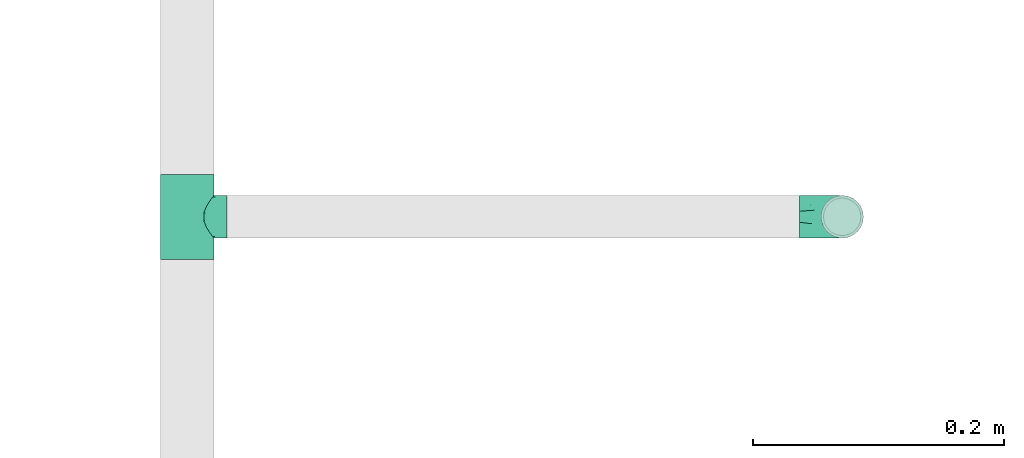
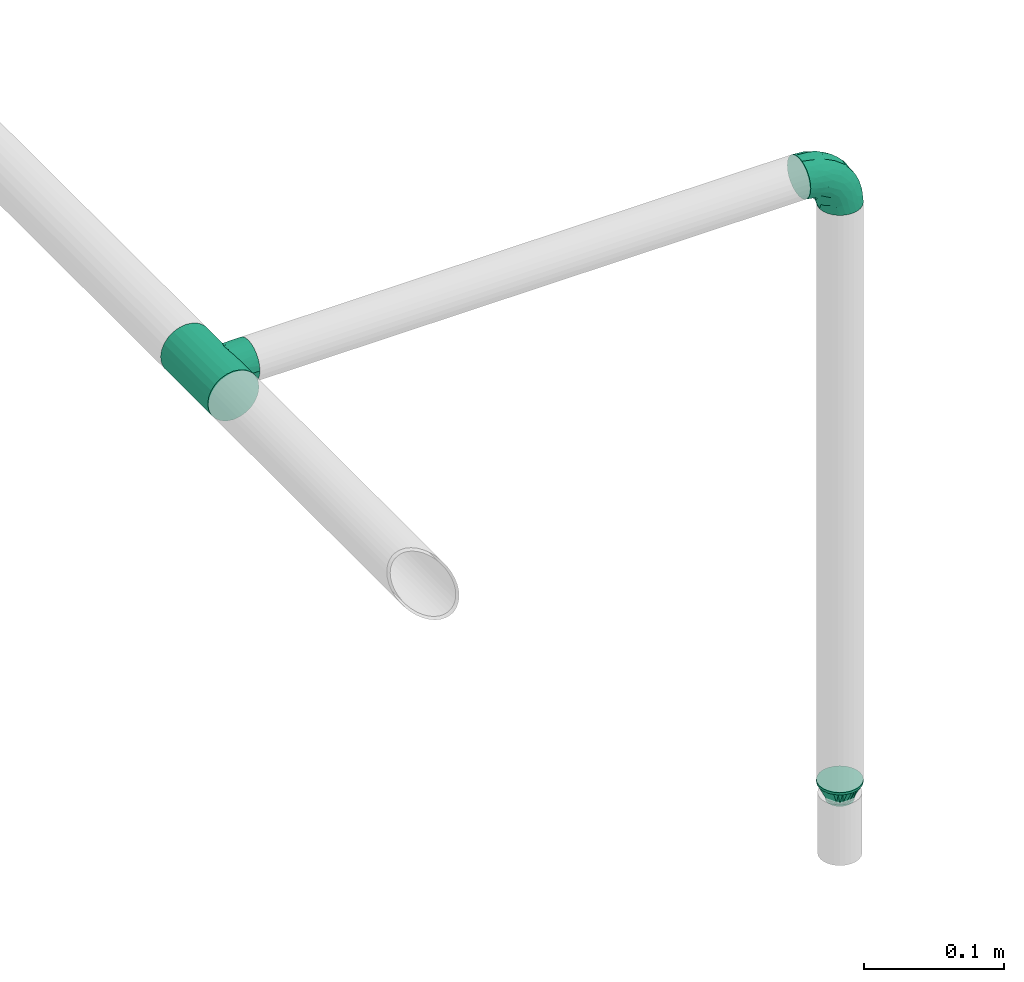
# One storey, part 37 of 95: 3 flow fittings.
"""IFC2X3 building model written with IfcOpenShell, lengths in millimetres."""

from ifc_helpers import new_model, entity, si_unit, converted_unit, derived_unit, direction, frame, origin_with_axes, place, context, subcontext, project, spatial, open_shell, surface_model, source, transform, mapped, type_object, element, save


model = new_model("IFC2X3")

# Units and contexts
model_context = context("Model", 3, precision=0.01, world=frame((0.0, 4.29681676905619e-09, 0.0)), true_north=direction((4.01073788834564e-13, 1.0)))
plan_context = context("Plan", 3, precision=0.01, world=frame((0.0, 4.29681676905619e-09, 0.0)), true_north=direction((4.01073788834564e-13, 1.0)))
body_context = subcontext(model_context, "Body", "Model", "MODEL_VIEW")
ifc_project = project(units=[converted_unit("PLANEANGLEUNIT", "DEGREE", entity("IfcPositiveLengthMeasure", 0.0174532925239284), si_unit("PLANEANGLEUNIT", "RADIAN"), dimensions=[0, 0, 0, 0, 0, 0, 0]), si_unit("AREAUNIT", "SQUARE_METRE"), si_unit("LENGTHUNIT", "METRE", prefix="MILLI"), si_unit("MASSUNIT", "GRAM", prefix="KILO"), si_unit("POWERUNIT", "WATT"), si_unit("PRESSUREUNIT", "PASCAL"), si_unit("FORCEUNIT", "NEWTON", prefix="KILO"), si_unit("ELECTRICVOLTAGEUNIT", "VOLT"), si_unit("ELECTRICCURRENTUNIT", "AMPERE"), si_unit("THERMODYNAMICTEMPERATUREUNIT", "DEGREE_CELSIUS"), si_unit("TIMEUNIT", "SECOND"), si_unit("VOLUMEUNIT", "CUBIC_METRE"), derived_unit("LINEARVELOCITYUNIT", [(si_unit("LENGTHUNIT", "METRE"), 1), (si_unit("TIMEUNIT", "SECOND"), -1)]), derived_unit("VOLUMETRICFLOWRATEUNIT", [(si_unit("VOLUMEUNIT", "CUBIC_METRE"), 1), (si_unit("TIMEUNIT", "SECOND"), -1)]), derived_unit("THERMALTRANSMITTANCEUNIT", [(si_unit("POWERUNIT", "WATT"), 1), (si_unit("THERMODYNAMICTEMPERATUREUNIT", "KELVIN"), -1), (si_unit("AREAUNIT", "SQUARE_METRE"), -1)]), derived_unit("SOUNDPRESSUREUNIT", [(si_unit("PRESSUREUNIT", "PASCAL"), 1)])], contexts=[model_context, plan_context])

# Site, building, storey
site_placement = place(None, frame((0.0, -4.29681676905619e-09, 0.0), z_axis=(0.0, 0.0, 1.0), x_axis=(1.0, 0.0, 0.0)))
site = spatial("IfcSite", under=ifc_project, at=site_placement, CompositionType="ELEMENT")
building_placement = place(site_placement, frame((0.0, 4.29681676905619e-09, 0.0), z_axis=(0.0, 0.0, 1.0), x_axis=(1.0, 0.0, 0.0)))
building = spatial("IfcBuilding", under=site, at=building_placement, Name="mc-building", CompositionType="ELEMENT")
storey_placement = place(building_placement, frame((0.0, 0.0, 210900.0), z_axis=(0.0, 0.0, 1.0), x_axis=(1.0, 0.0, 0.0)))
storey = spatial("IfcBuildingStorey", under=building, at=storey_placement, Name="Nivå F", CompositionType="ELEMENT", Elevation=210900.0)

# Flow fittings
pipe_fitting_type_1 = type_object("IfcPipeFittingType", Name="magi_pipe_fe_reducer_centric_short_NOR", PredefinedType="TRANSITION")
shared_shape_1 = source(origin_with_axes(), body_context, "Body", "SurfaceModel", [
    surface_model("IfcShellBasedSurfaceModel", [(14.4, 5.35, -9.26647), (14.4, 0.0, -10.7), (14.4, 2.76936, -10.33541), (14.4, 10.33541, -2.76936), (14.4, 7.56604, -7.56604), (14.4, -10.33541, -2.76936), (14.4, 9.26647, -5.35), (14.4, 0.0, 10.7), (14.4, -5.35, -9.26647), (14.4, -2.76936, -10.33541), (14.4, -7.56604, -7.56604), (14.4, -9.26647, -5.35), (14.4, 10.7, 0.0), (14.4, 10.33541, 2.76936), (14.4, 9.26647, 5.35), (14.4, 7.56604, 7.56604), (14.4, 2.76936, 10.33541), (14.4, 5.35, 9.26647), (14.4, -10.33541, 2.76936), (14.4, -7.56604, 7.56604), (14.4, -9.26647, 5.35), (14.4, -10.7, 0.0), (14.4, -2.76936, 10.33541), (14.4, -5.35, 9.26647), (12.4, 2.76936, 10.33541), (12.4, -10.33541, -2.76936), (12.4, 0.0, 10.7), (12.4, 5.35, 9.26647), (12.4, 7.56604, 7.56604), (12.4, 9.26647, 5.35), (12.4, 10.33541, 2.76936), (12.4, -10.33541, 2.76936), (12.4, -2.76936, 10.33541), (12.4, -7.56604, 7.56604), (12.4, -5.35, 9.26647), (12.4, -9.26647, 5.35), (12.4, -10.7, 0.0), (12.4, 10.33541, -2.76936), (12.4, 5.35, -9.26647), (12.4, 9.26647, -5.35), (12.4, 7.56604, -7.56604), (12.4, 2.76936, -10.33541), (12.4, -9.26647, -5.35), (12.4, -5.35, -9.26647), (12.4, -7.56604, -7.56604), (12.4, 0.0, -10.7), (12.4, -2.76936, -10.33541), (12.4, 10.7, 0.0), (-2.0, 11.9501, 11.9501), (-2.0, 0.0, 16.9), (-2.0, 4.37404, 16.32415), (-2.0, 8.45, 14.63583), (-2.0, 14.63583, 8.45), (-2.0, 16.32415, 4.37404), (-2.0, -16.32415, 4.37404), (-2.0, -8.45, 14.63583), (-2.0, -14.63583, 8.45), (-2.0, -11.9501, 11.9501), (-2.0, -4.37404, 16.32415), (-2.0, -16.32415, -4.37404), (-2.0, -16.9, 0.0), (-2.0, -8.45, -14.63583), (-2.0, 16.32415, -4.37404), (-2.0, 11.9501, -11.9501), (-2.0, 14.63583, -8.45), (-2.0, 8.45, -14.63583), (-2.0, 4.37404, -16.32415), (-2.0, 0.0, -16.9), (-2.0, -11.9501, -11.9501), (-2.0, -14.63583, -8.45), (-2.0, -4.37404, -16.32415), (-2.0, 16.9, 0.0), (0.0, 4.37404, -16.32415), (0.0, 8.45, -14.63583), (0.0, 11.9501, -11.9501), (0.0, 0.0, -16.9), (0.0, 16.32415, -4.37404), (0.0, 16.32415, 4.37404), (0.0, 14.63583, -8.45), (0.0, -8.45, -14.63583), (0.0, -4.37404, -16.32415), (0.0, -11.9501, -11.9501), (0.0, -16.32415, -4.37404), (0.0, -14.63583, -8.45), (0.0, -16.32415, 4.37404), (0.0, 16.9, 0.0), (0.0, 14.63583, 8.45), (0.0, 11.9501, 11.9501), (0.0, 4.37404, 16.32415), (0.0, 8.45, 14.63583), (0.0, 0.0, 16.9), (0.0, -14.63583, 8.45), (0.0, -16.9, 0.0), (0.0, -8.45, 14.63583), (0.0, -11.9501, 11.9501), (0.0, -4.37404, 16.32415), (12.4, 9.3625, -2.31662), (0.0, 14.42505, -5.97505), (0.0, 15.66253, -2.98753), (12.4, -6.6875, -6.94985), (0.0, -13.18758, -8.96258), (0.0, 2.98753, -15.66253), (12.4, 0.0, -9.26647), (12.4, 6.6875, -6.94985), (0.0, 8.96258, -13.18758), (12.4, -9.3625, -2.31662), (0.0, -15.66253, -2.98753), (0.0, -14.42505, -5.97505), (0.0, 5.97505, -14.42505), (0.0, -2.98753, -15.66253), (0.0, -8.96258, -13.18758), (0.0, 13.18758, -8.96258), (12.4, 8.025, -4.63324), (12.4, -2.675, -9.26647), (12.4, 2.675, -9.26647), (0.0, -5.97505, -14.42505), (12.4, -8.025, -4.63324), (12.4, -9.3625, 2.31662), (0.0, -14.42505, 5.97505), (0.0, -15.66253, 2.98753), (12.4, 6.6875, 6.94985), (0.0, 13.18758, 8.96258), (0.0, -2.98753, 15.66253), (12.4, 0.0, 9.26647), (12.4, -6.6875, 6.94985), (0.0, -8.96258, 13.18758), (12.4, 9.3625, 2.31662), (0.0, 15.66253, 2.98753), (0.0, 14.42505, 5.97505), (0.0, -5.97505, 14.42505), (0.0, 2.98753, 15.66253), (0.0, 8.96258, 13.18758), (0.0, -13.18758, 8.96258), (12.4, -8.025, 4.63324), (12.4, 2.675, 9.26647), (12.4, -2.675, 9.26647), (0.0, 5.97505, 14.42505), (12.4, 8.025, 4.63324)], [open_shell([[[0, 1, 2]], [[3, 0, 4]], [[5, 0, 3]], [[3, 4, 6]], [[7, 5, 3]], [[1, 8, 9]], [[1, 0, 8]], [[10, 5, 11]], [[5, 10, 8]], [[0, 5, 8]], [[3, 12, 13]], [[13, 14, 15]], [[13, 15, 16]], [[7, 3, 16]], [[16, 15, 17]], [[7, 18, 5]], [[18, 19, 20]], [[21, 5, 18]], [[19, 22, 23]], [[22, 19, 18]], [[7, 22, 18]], [[13, 16, 3]], [[24, 25, 26]], [[27, 25, 24]], [[28, 29, 30]], [[28, 25, 27]], [[31, 26, 25]], [[32, 33, 34]], [[33, 32, 31]], [[33, 31, 35]], [[32, 26, 31]], [[31, 25, 36]], [[30, 37, 28]], [[25, 28, 37]], [[38, 37, 39]], [[37, 38, 25]], [[38, 39, 40]], [[41, 25, 38]], [[42, 43, 44]], [[43, 42, 25]], [[43, 45, 46]], [[43, 25, 41]], [[41, 45, 43]], [[37, 30, 47]], [[25, 5, 36]], [[42, 11, 25]], [[8, 44, 43]], [[42, 44, 10]], [[9, 43, 46]], [[25, 11, 5]], [[5, 21, 36]], [[9, 8, 43]], [[10, 44, 8]], [[10, 11, 42]], [[1, 9, 46]], [[46, 45, 1]], [[41, 2, 45]], [[38, 0, 41]], [[6, 40, 39]], [[38, 40, 4]], [[3, 39, 37]], [[38, 4, 0]], [[0, 2, 41]], [[12, 3, 37]], [[6, 39, 3]], [[6, 4, 40]], [[47, 12, 37]], [[45, 2, 1]], [[30, 13, 47]], [[29, 14, 30]], [[17, 28, 27]], [[29, 28, 15]], [[16, 27, 24]], [[30, 14, 13]], [[13, 12, 47]], [[16, 17, 27]], [[15, 28, 17]], [[15, 14, 29]], [[7, 16, 24]], [[24, 26, 7]], [[32, 22, 26]], [[34, 23, 32]], [[20, 33, 35]], [[34, 33, 19]], [[18, 35, 31]], [[34, 19, 23]], [[23, 22, 32]], [[21, 18, 31]], [[20, 35, 18]], [[20, 19, 33]], [[36, 21, 31]], [[26, 22, 7]], [[48, 49, 50]], [[48, 50, 51]], [[48, 52, 53]], [[48, 53, 49]], [[49, 53, 54]], [[55, 56, 57]], [[55, 58, 49]], [[56, 55, 49]], [[49, 54, 56]], [[54, 59, 60]], [[54, 53, 61]], [[53, 62, 63]], [[63, 62, 64]], [[63, 65, 66]], [[61, 53, 63]], [[67, 63, 66]], [[59, 68, 69]], [[68, 59, 61]], [[61, 67, 70]], [[59, 54, 61]], [[63, 67, 61]], [[53, 71, 62]], [[72, 73, 74]], [[75, 72, 74]], [[74, 76, 77]], [[76, 74, 78]], [[74, 77, 79]], [[75, 79, 80]], [[75, 74, 79]], [[81, 82, 83]], [[82, 81, 79]], [[79, 84, 82]], [[77, 76, 85]], [[77, 86, 87]], [[77, 87, 88]], [[88, 84, 79]], [[88, 87, 89]], [[84, 88, 90]], [[90, 91, 84]], [[92, 82, 84]], [[91, 93, 94]], [[91, 90, 93]], [[93, 90, 95]], [[79, 77, 88]], [[59, 82, 60]], [[69, 83, 59]], [[79, 68, 61]], [[69, 68, 81]], [[80, 61, 70]], [[59, 83, 82]], [[82, 92, 60]], [[80, 79, 61]], [[81, 68, 79]], [[81, 83, 69]], [[75, 80, 70]], [[70, 67, 75]], [[66, 72, 67]], [[65, 73, 66]], [[78, 63, 64]], [[65, 63, 74]], [[76, 64, 62]], [[65, 74, 73]], [[73, 72, 66]], [[85, 76, 62]], [[78, 64, 76]], [[78, 74, 63]], [[71, 85, 62]], [[67, 72, 75]], [[53, 77, 71]], [[52, 86, 53]], [[89, 48, 51]], [[52, 48, 87]], [[88, 51, 50]], [[53, 86, 77]], [[77, 85, 71]], [[88, 89, 51]], [[87, 48, 89]], [[87, 86, 52]], [[90, 88, 50]], [[50, 49, 90]], [[58, 95, 49]], [[55, 93, 58]], [[91, 57, 56]], [[55, 57, 94]], [[84, 56, 54]], [[55, 94, 93]], [[93, 95, 58]], [[92, 84, 54]], [[91, 56, 84]], [[91, 94, 57]], [[60, 92, 54]], [[49, 95, 90]], [[27, 34, 47]], [[47, 34, 43]], [[43, 38, 47]], [[43, 34, 36]], [[90, 87, 94]], [[92, 94, 87]], [[87, 74, 92]], [[75, 92, 74]], [[81, 92, 75]], [[74, 87, 85]], [[96, 97, 98]], [[81, 99, 100]], [[101, 102, 75]], [[98, 85, 47]], [[74, 103, 104]], [[104, 103, 38]], [[105, 106, 107]], [[38, 108, 104]], [[102, 109, 75]], [[110, 99, 81]], [[47, 96, 98]], [[103, 111, 112]], [[109, 102, 113]], [[36, 92, 106]], [[102, 101, 114]], [[110, 115, 43]], [[96, 112, 97]], [[107, 116, 105]], [[36, 106, 105]], [[113, 115, 109]], [[43, 115, 113]], [[116, 107, 100]], [[108, 38, 114]], [[111, 103, 74]], [[111, 97, 112]], [[99, 110, 43]], [[116, 100, 99]], [[101, 108, 114]], [[117, 118, 119]], [[87, 120, 121]], [[122, 123, 90]], [[119, 92, 36]], [[94, 124, 125]], [[125, 124, 34]], [[126, 127, 128]], [[34, 129, 125]], [[123, 130, 90]], [[131, 120, 87]], [[36, 117, 119]], [[124, 132, 133]], [[130, 123, 134]], [[47, 85, 127]], [[123, 122, 135]], [[131, 136, 27]], [[117, 133, 118]], [[128, 137, 126]], [[47, 127, 126]], [[134, 136, 130]], [[27, 136, 134]], [[137, 128, 121]], [[129, 34, 135]], [[132, 124, 94]], [[132, 118, 133]], [[120, 131, 27]], [[137, 121, 120]], [[122, 129, 135]]])]),
])
flow_fitting_1_placement = place(storey_placement, frame((523300.9291, 441214.71498, 3769.35200000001), z_axis=(0.0, -1.0, 0.0), x_axis=(0.0, 0.0, -1.0)))
element("IfcFlowFitting", 1, at=flow_fitting_1_placement, inside=storey, type_object=pipe_fitting_type_1, Name="magi_pipe_fe_reducer_centric_short_NOR", context=body_context, shape_type="MappedRepresentation", body=[
    mapped(shared_shape_1, transform((0.0, 0.0, 0.0), scale=1.0)),
])
pipe_fitting_type_2 = type_object("IfcPipeFittingType", Name="magi_pipe_fe_tee_centric_90_NOR", PredefinedType="JUNCTION")
shared_shape_2 = source(origin_with_axes(), body_context, "Body", "SurfaceModel", [
    surface_model("IfcShellBasedSurfaceModel", [(-33.8, 0.0, -21.2), (-33.8, -5.48696, -20.47763), (-33.8, 5.48696, -20.47763), (-33.8, 10.6, -18.35974), (-33.8, 14.99066, -14.99066), (-33.8, -20.47763, 5.48696), (-33.8, 18.35974, -10.6), (-33.8, 10.6, 18.35974), (-33.8, -14.99066, -14.99066), (-33.8, -18.35974, -10.6), (-33.8, -10.6, -18.35974), (-33.8, -20.47763, -5.48696), (-33.8, -21.2, 0.0), (-33.8, 18.35974, 10.6), (-33.8, 20.47763, -5.48696), (-33.8, 20.47763, 5.48696), (-33.8, 21.2, 0.0), (-33.8, 14.99066, 14.99066), (-33.8, 5.48696, 20.47763), (-33.8, 0.0, 21.2), (-33.8, -18.35974, 10.6), (-33.8, -14.99066, 14.99066), (-33.8, -10.6, 18.35974), (-33.8, -5.48696, 20.47763), (33.8, 5.48696, -20.47763), (33.8, -5.48696, -20.47763), (33.8, 0.0, -21.2), (33.8, 14.99066, -14.99066), (33.8, 10.6, -18.35974), (33.8, 18.35974, -10.6), (33.8, 20.47763, -5.48696), (33.8, -21.2, 0.0), (33.8, -10.6, -18.35974), (33.8, -18.35974, -10.6), (33.8, -14.99066, -14.99066), (33.8, -20.47763, -5.48696), (33.8, -20.47763, 5.48696), (33.8, 21.2, 0.0), (33.8, 20.47763, 5.48696), (33.8, 18.35974, 10.6), (33.8, 10.6, 18.35974), (33.8, 14.99066, 14.99066), (33.8, 0.0, 21.2), (33.8, 5.48696, 20.47763), (33.8, -14.99066, 14.99066), (33.8, -18.35974, 10.6), (33.8, -10.6, 18.35974), (33.8, -5.48696, 20.47763), (16.9, -21.2, 0.0), (15.78624, -20.32327, 6.03364), (12.81343, -18.11115, 11.01935), (8.52479, -15.37862, 14.59239), (3.07939, -13.16482, 16.61708), (-16.9, -21.2, 0.0), (-15.78686, -20.32375, 6.032), (-8.52604, -15.37932, 14.59166), (-3.0848, -13.16609, 16.61608), (-12.81602, -18.11299, 11.01634), (3.07939, -13.16482, -16.61708), (12.81343, -18.11115, -11.01935), (8.52479, -15.37862, -14.59239), (15.78624, -20.32327, -6.03364), (-3.0848, -13.16609, -16.61608), (-8.52604, -15.37932, -14.59166), (-12.81602, -18.11299, -11.01634), (-15.78686, -20.32375, -6.032), (4.37404, -31.8, -16.32415), (-16.9, -31.8, 0.0), (0.0, -31.8, -16.9), (14.63583, -31.8, -8.45), (8.45, -31.8, -14.63583), (16.32415, -31.8, -4.37404), (11.9501, -31.8, -11.9501), (-11.9501, -31.8, -11.9501), (-8.45, -31.8, -14.63583), (-4.37404, -31.8, -16.32415), (-14.63583, -31.8, -8.45), (-16.32415, -31.8, -4.37404), (16.9, -31.8, 0.0), (8.45, -31.8, 14.63583), (16.32415, -31.8, 4.37404), (14.63583, -31.8, 8.45), (-8.45, -31.8, 14.63583), (11.9501, -31.8, 11.9501), (4.37404, -31.8, 16.32415), (-16.32415, -31.8, 4.37404), (-11.9501, -31.8, 11.9501), (-14.63583, -31.8, 8.45), (0.0, -31.8, 16.9), (-4.37404, -31.8, 16.32415), (-16.34343, -20.76188, 3.016), (16.34312, -20.76163, 3.01682), (-0.00271, -13.16546, 16.61658), (16.34312, -20.76163, -3.01682), (-0.00271, -13.16546, -16.61658), (-16.34343, -20.76188, -3.016)], [open_shell([[[0, 1, 2]], [[3, 2, 4]], [[5, 2, 1]], [[4, 2, 6]], [[6, 2, 7]], [[8, 9, 10]], [[1, 10, 9]], [[9, 11, 1]], [[12, 1, 11]], [[5, 1, 12]], [[13, 14, 6]], [[13, 15, 16]], [[6, 7, 13]], [[5, 7, 2]], [[17, 13, 7]], [[18, 7, 19]], [[20, 21, 5]], [[22, 5, 21]], [[23, 19, 22]], [[7, 5, 22]], [[22, 19, 7]], [[16, 14, 13]], [[24, 25, 26]], [[27, 24, 28]], [[29, 30, 24]], [[29, 24, 27]], [[31, 24, 30]], [[32, 33, 34]], [[33, 32, 25]], [[33, 31, 35]], [[31, 33, 25]], [[25, 24, 31]], [[30, 36, 31]], [[37, 38, 39]], [[37, 39, 40]], [[37, 40, 36]], [[40, 39, 41]], [[42, 40, 43]], [[36, 44, 45]], [[44, 36, 46]], [[46, 42, 47]], [[46, 36, 40]], [[40, 42, 46]], [[37, 36, 30]], [[31, 36, 48]], [[49, 48, 36]], [[36, 45, 49]], [[45, 44, 50]], [[51, 50, 44]], [[52, 51, 44]], [[44, 46, 52]], [[45, 50, 49]], [[53, 54, 5]], [[5, 12, 53]], [[54, 20, 5]], [[55, 56, 21]], [[20, 57, 21]], [[57, 20, 54]], [[21, 57, 55]], [[56, 22, 21]], [[52, 22, 56]], [[19, 47, 42]], [[23, 46, 47]], [[18, 42, 43]], [[39, 38, 15]], [[17, 40, 41]], [[13, 41, 39]], [[43, 40, 7]], [[16, 38, 37]], [[22, 46, 23]], [[23, 47, 19]], [[18, 19, 42]], [[43, 7, 18]], [[7, 40, 17]], [[13, 17, 41]], [[15, 13, 39]], [[38, 16, 15]], [[46, 22, 52]], [[6, 30, 29]], [[14, 37, 30]], [[4, 29, 27]], [[26, 25, 1]], [[2, 28, 24]], [[0, 24, 26]], [[27, 28, 3]], [[10, 25, 32]], [[16, 37, 14]], [[14, 30, 6]], [[4, 6, 29]], [[27, 3, 4]], [[3, 28, 2]], [[0, 2, 24]], [[1, 0, 26]], [[25, 10, 1]], [[32, 58, 10]], [[34, 59, 60]], [[59, 34, 33]], [[60, 58, 34]], [[34, 58, 32]], [[35, 31, 48]], [[35, 61, 33]], [[61, 35, 48]], [[33, 61, 59]], [[62, 63, 8]], [[8, 64, 9]], [[64, 8, 63]], [[62, 8, 10]], [[65, 53, 11]], [[65, 11, 9]], [[11, 53, 12]], [[65, 9, 64]], [[58, 62, 10]], [[66, 67, 68]], [[69, 66, 70]], [[69, 71, 66]], [[69, 70, 72]], [[67, 66, 71]], [[68, 73, 74]], [[74, 75, 68]], [[76, 67, 77]], [[73, 68, 76]], [[67, 76, 68]], [[71, 78, 67]], [[79, 78, 80]], [[79, 80, 81]], [[82, 67, 79]], [[79, 81, 83]], [[82, 79, 84]], [[85, 86, 87]], [[86, 85, 82]], [[82, 88, 89]], [[85, 67, 82]], [[84, 88, 82]], [[79, 67, 78]], [[85, 90, 67]], [[57, 87, 86]], [[85, 87, 54]], [[86, 82, 55]], [[85, 54, 90]], [[90, 53, 67]], [[54, 87, 57]], [[91, 49, 80]], [[55, 89, 56]], [[55, 57, 86]], [[88, 52, 92]], [[55, 82, 89]], [[52, 88, 84]], [[79, 51, 84]], [[50, 83, 81]], [[83, 51, 79]], [[81, 80, 49]], [[83, 50, 51]], [[51, 52, 84]], [[78, 91, 80]], [[49, 50, 81]], [[91, 78, 48]], [[88, 56, 89]], [[92, 56, 88]], [[71, 93, 78]], [[59, 69, 72]], [[71, 69, 61]], [[72, 70, 60]], [[93, 48, 78]], [[61, 69, 59]], [[60, 66, 58]], [[60, 59, 72]], [[68, 62, 94]], [[60, 70, 66]], [[95, 67, 53]], [[95, 65, 77]], [[71, 61, 93]], [[75, 62, 68]], [[65, 76, 77]], [[73, 76, 64]], [[68, 58, 66]], [[75, 63, 62]], [[63, 75, 74]], [[74, 73, 63]], [[63, 73, 64]], [[64, 76, 65]], [[67, 95, 77]], [[94, 58, 68]]])]),
])
flow_fitting_2_placement = place(storey_placement, frame((522779.7291, 441214.71498, 4310.0), z_axis=(0.0, 0.0, 1.0), x_axis=(0.0, 1.0, 0.0)))
element("IfcFlowFitting", 2, at=flow_fitting_2_placement, inside=storey, type_object=pipe_fitting_type_2, Name="magi_pipe_fe_tee_centric_90_NOR", context=body_context, shape_type="MappedRepresentation", body=[
    mapped(shared_shape_2, transform((0.0, 0.0, 0.0), scale=1.0)),
])
pipe_fitting_type_3 = type_object("IfcPipeFittingType", Name="magi_pipe_fe_elbow_short_001", PredefinedType="BEND")
shared_shape_3 = source(origin_with_axes(), body_context, "Body", "SurfaceModel", [
    surface_model("IfcShellBasedSurfaceModel", [(-33.8, 8.45, -14.63583), (-33.8, 4.37404, -16.32415), (-33.8, 11.9501, -11.9501), (-33.8, -11.9501, -11.9501), (-33.8, -14.63583, -8.45), (-33.8, -8.45, -14.63583), (-33.8, 0.0, -16.9), (-33.8, -4.37404, -16.32415), (-33.8, -4.37404, 16.32415), (-33.8, 0.0, 16.9), (-33.8, -8.45, 14.63583), (-33.8, 16.32415, -4.37404), (-33.8, 14.63583, -8.45), (-33.8, -16.32415, -4.37404), (-33.8, -16.9, 0.0), (-33.8, -16.32415, 4.37404), (-33.8, 11.9501, 11.9501), (-33.8, 14.63583, 8.45), (-33.8, 16.32415, 4.37404), (-33.8, 4.37404, 16.32415), (-33.8, 8.45, 14.63583), (-33.8, -14.63583, 8.45), (-33.8, -11.9501, 11.9501), (-33.8, 16.9, 0.0), (-11.9501, 33.8, -11.9501), (0.0, 33.8, -16.9), (-4.37404, 33.8, -16.32415), (-8.45, 33.8, -14.63583), (-14.63583, 33.8, -8.45), (-16.32415, 33.8, -4.37404), (14.63583, 33.8, -8.45), (8.45, 33.8, 14.63583), (16.32415, 33.8, -4.37404), (8.45, 33.8, -14.63583), (11.9501, 33.8, -11.9501), (4.37404, 33.8, -16.32415), (16.32415, 33.8, 4.37404), (16.9, 33.8, 0.0), (-11.9501, 33.8, 11.9501), (-16.32415, 33.8, 4.37404), (-14.63583, 33.8, 8.45), (-8.45, 33.8, 14.63583), (-4.37404, 33.8, 16.32415), (11.9501, 33.8, 11.9501), (14.63583, 33.8, 8.45), (0.0, 33.8, 16.9), (4.37404, 33.8, 16.32415), (-16.9, 33.8, 0.0), (-24.79389, -13.12945, 9.48721), (-22.19287, -9.75018, 12.59315), (-24.09897, -14.97035, 0.0), (-14.93934, -10.76256, 8.5297), (-22.46095, -14.75051, 5.27077), (14.75051, 22.46094, 5.27077), (11.9251, 13.23888, 4.33236), (13.04069, 14.39795, 0.0), (7.71387, 13.68847, 11.55891), (9.75018, 22.19287, 12.59315), (4.10169, 13.0571, 14.04018), (-24.84007, -6.39063, 15.2048), (-25.81779, -2.23879, 16.61097), (-23.66549, 2.59054, 16.87119), (-26.50418, 14.06512, 11.08152), (-24.21253, 17.66365, 7.72657), (-29.58514, 15.86957, 7.00283), (-6.17382, -7.5455, 0.0), (-13.23888, -11.9251, 4.33236), (-14.39795, -13.04069, 0.0), (-17.81434, 18.87373, 11.97104), (-6.30846, 29.15138, 15.82987), (-2.31622, 25.28002, 16.85849), (-29.23923, 10.23435, 13.77053), (-1.45439, -2.85688, 7.61475), (-0.28326, 0.34872, 10.09509), (-5.74484, -4.04709, 10.4122), (-4.41137, 11.31918, 16.59407), (-8.39727, 3.10034, 15.7812), (-1.72649, 9.1306, 15.53089), (-17.39909, 24.75344, 7.64977), (-26.19233, 20.0512, 0.0), (-28.14518, 17.29657, 4.25857), (-26.05147, 6.6281, 15.96447), (-5.87354, 16.61944, 16.86968), (-12.51807, 12.51807, 16.48937), (-10.06312, 7.38516, 16.81295), (-3.01882, 3.01882, 13.81718), (-13.0571, -4.10169, 14.04018), (-16.82553, -0.15166, 16.38038), (10.76256, 14.93934, 8.5297), (13.12945, 24.79389, 9.48721), (6.39063, 24.84007, 15.2048), (2.23879, 25.81779, 16.61097), (-13.68847, -7.71387, 11.55891), (14.97035, 24.09897, 0.0), (-7.30894, 22.89991, 16.09489), (-10.67958, 26.17414, 14.008), (-12.78295, 18.26924, 15.06066), (-13.88562, 22.45231, 12.93244), (-18.04944, 15.16501, 14.04434), (-23.11658, 20.08178, 4.02986), (-21.84989, 21.84989, 0.0), (-18.55817, 25.48277, 3.93065), (-13.95142, 26.94732, 11.03289), (-18.57098, 7.23906, 16.59756), (-16.58335, 4.14122, 16.89279), (-17.96666, 11.46709, 15.63151), (-9.84453, 17.54304, 16.18938), (0.15166, 16.82553, 16.38038), (-23.27207, 11.47201, 14.23154), (3.84842, 5.86994, 10.70473), (-8.0212, -7.54413, 7.93275), (1.00345, -2.19508, 4.57414), (5.13203, 3.01004, 5.90201), (5.24161, 1.7543, 2.53265), (8.70457, 7.04947, 3.99182), (-20.0512, 26.19233, 0.0), (8.4852, 8.76699, 7.09296), (-4.55488, -6.72064, 4.90681), (2.05031, -2.05031, 0.0), (7.5455, 6.17382, 0.0), (-26.75399, 2.1369, -16.845), (-14.61995, 24.73803, -11.27736), (-28.45274, -13.45335, -9.81895), (-26.00469, 6.63555, -15.96645), (-23.06726, 20.04573, -4.26202), (-13.80647, -4.26506, -14.17873), (-14.67501, -0.21081, -16.07388), (-6.7902, -0.2828, -13.8478), (-24.53586, 11.08096, -14.13417), (-26.72048, 14.00837, -11.05776), (10.0967, 24.44989, -12.75976), (5.83237, 21.40218, -15.03047), (6.66249, 28.54238, -15.38093), (-20.38182, 15.48705, -12.74596), (12.53268, 21.23441, -9.15363), (12.54494, 15.67504, -5.54878), (9.7522, 12.89279, -8.66343), (-15.65186, 19.64213, -13.01327), (-12.03528, 20.66498, -14.67665), (-15.61907, 15.61906, -14.83879), (-25.56551, -15.26206, 0.0), (-24.65452, -15.12934, -5.50955), (13.45335, 28.45274, -9.81895), (15.12934, 24.65452, -5.50955), (-7.35442, -8.31014, -5.65563), (-15.67504, -12.54494, -5.54878), (-24.44989, -10.0967, -12.75976), (0.16522, 0.41303, -9.71728), (-5.70658, -5.33066, -8.89288), (-5.13869, -2.37198, -11.53565), (-21.23441, -12.53268, -9.15363), (0.71146, 7.93863, -14.09382), (0.21081, 14.67501, -16.07388), (3.49291, 14.42772, -14.76381), (-24.89911, -2.13088, -16.591), (-28.54238, -6.66249, -15.38093), (-18.44386, -7.71663, -13.26957), (2.13088, 24.89911, -16.591), (-28.64342, 17.44413, -2.89318), (1.70017, -1.28722, -5.09504), (-16.57067, 26.81947, -7.36596), (-17.69055, 27.4263, -3.76405), (-12.89279, -9.7522, -8.66343), (-5.96611, 5.96611, -15.95814), (-20.53709, 20.09345, -8.28985), (-2.1369, 26.75399, -16.845), (-6.89872, 24.58781, -16.02578), (-10.60739, 26.53157, -13.98044), (-21.40218, -5.83237, -15.03047), (2.93192, 5.89627, -11.55917), (6.89393, 12.61842, -11.82233), (5.58056, 5.95325, -8.79455), (-3.99512, 18.61798, -16.89635), (8.31014, 7.35442, -5.65563), (-9.1383, 9.86148, -16.89041), (-9.99983, 16.02119, -16.39699), (-16.68576, 9.78031, -16.34199), (-27.01915, 16.61158, -7.12979), (15.26206, 25.56551, 0.0), (-18.61798, 3.99512, -16.89635), (-19.37495, 27.82495, 0.0), (-12.61842, -6.89393, -11.82233), (-18.84705, 19.14018, -10.96545)], [open_shell([[[0, 1, 2]], [[3, 4, 5]], [[6, 7, 5]], [[8, 9, 10]], [[1, 6, 2]], [[11, 12, 2]], [[4, 2, 6]], [[2, 13, 10]], [[5, 4, 6]], [[2, 4, 13]], [[14, 15, 13]], [[11, 2, 16]], [[11, 17, 18]], [[11, 16, 17]], [[19, 20, 16]], [[16, 2, 10]], [[19, 16, 10]], [[21, 22, 15]], [[22, 13, 15]], [[22, 10, 13]], [[10, 9, 19]], [[11, 18, 23]], [[24, 25, 26]], [[24, 26, 27]], [[24, 28, 29]], [[25, 24, 30]], [[31, 32, 24]], [[33, 30, 34]], [[33, 35, 25]], [[25, 30, 33]], [[32, 30, 24]], [[32, 36, 37]], [[38, 24, 29]], [[39, 40, 29]], [[40, 38, 29]], [[38, 41, 42]], [[38, 31, 24]], [[31, 38, 42]], [[36, 43, 44]], [[36, 32, 43]], [[31, 45, 46]], [[32, 31, 43]], [[42, 45, 31]], [[39, 29, 47]], [[22, 48, 49]], [[15, 14, 50]], [[51, 48, 52]], [[53, 54, 55]], [[48, 22, 21]], [[15, 52, 21]], [[56, 57, 58]], [[49, 10, 22]], [[49, 59, 10]], [[9, 60, 61]], [[62, 63, 64]], [[65, 66, 67]], [[57, 43, 31]], [[62, 68, 63]], [[42, 69, 70]], [[20, 71, 16]], [[8, 60, 9]], [[72, 73, 74]], [[75, 76, 77]], [[16, 62, 17]], [[40, 39, 78]], [[79, 23, 80]], [[64, 18, 17]], [[9, 61, 19]], [[19, 81, 20]], [[82, 83, 84]], [[74, 85, 86]], [[59, 86, 87]], [[88, 89, 57]], [[90, 31, 46]], [[44, 53, 36]], [[46, 45, 91]], [[54, 53, 88]], [[44, 89, 53]], [[92, 86, 49]], [[89, 44, 43]], [[10, 59, 8]], [[53, 55, 93]], [[93, 36, 53]], [[66, 52, 67]], [[94, 82, 70]], [[95, 96, 94]], [[97, 98, 96]], [[79, 99, 100]], [[41, 38, 95]], [[101, 100, 99]], [[68, 78, 63]], [[42, 41, 69]], [[23, 18, 80]], [[95, 94, 69]], [[78, 101, 99]], [[38, 102, 95]], [[70, 45, 42]], [[97, 95, 102]], [[15, 50, 52]], [[90, 57, 31]], [[57, 90, 58]], [[81, 19, 61]], [[103, 104, 84]], [[105, 81, 103]], [[38, 40, 102]], [[106, 96, 83]], [[94, 106, 82]], [[91, 70, 107]], [[71, 62, 16]], [[62, 108, 98]], [[86, 59, 49]], [[67, 52, 50]], [[60, 59, 87]], [[92, 49, 51]], [[86, 85, 76]], [[91, 90, 46]], [[37, 36, 93]], [[107, 77, 58]], [[107, 58, 90]], [[58, 85, 109]], [[110, 74, 92]], [[72, 74, 110]], [[66, 51, 52]], [[72, 111, 112]], [[113, 114, 112]], [[56, 88, 57]], [[52, 48, 21]], [[49, 48, 51]], [[57, 89, 43]], [[53, 89, 88]], [[103, 81, 61]], [[71, 81, 108]], [[18, 64, 80]], [[63, 78, 99]], [[47, 115, 101]], [[101, 115, 100]], [[40, 78, 102]], [[68, 102, 78]], [[97, 96, 95]], [[105, 98, 108]], [[103, 84, 83]], [[107, 70, 82]], [[76, 84, 87]], [[82, 84, 75]], [[70, 91, 45]], [[90, 91, 107]], [[59, 60, 8]], [[61, 60, 87]], [[73, 85, 74]], [[109, 112, 116]], [[103, 61, 104]], [[105, 103, 83]], [[96, 105, 83]], [[81, 105, 108]], [[96, 98, 105]], [[62, 98, 68]], [[61, 87, 104]], [[87, 84, 104]], [[86, 76, 87]], [[77, 76, 85]], [[58, 77, 85]], [[75, 77, 107]], [[82, 75, 107]], [[76, 75, 84]], [[81, 71, 20]], [[62, 71, 108]], [[95, 69, 41]], [[70, 69, 94]], [[62, 64, 17]], [[80, 63, 99]], [[63, 80, 64]], [[80, 99, 79]], [[66, 65, 117]], [[110, 66, 117]], [[112, 114, 116]], [[118, 117, 65]], [[110, 92, 51]], [[112, 111, 113]], [[119, 55, 54]], [[74, 86, 92]], [[58, 109, 56]], [[116, 56, 109]], [[66, 110, 51]], [[72, 110, 117]], [[111, 72, 117]], [[73, 112, 109]], [[117, 118, 111]], [[113, 111, 118]], [[118, 119, 113]], [[114, 119, 54]], [[119, 114, 113]], [[116, 54, 88]], [[54, 116, 114]], [[116, 88, 56]], [[112, 73, 72]], [[85, 73, 109]], [[78, 39, 101]], [[47, 101, 39]], [[102, 68, 97]], [[97, 68, 98]], [[82, 106, 83]], [[94, 96, 106]], [[1, 120, 6]], [[28, 24, 121]], [[3, 122, 4]], [[0, 123, 1]], [[100, 124, 79]], [[125, 126, 127]], [[128, 2, 129]], [[130, 131, 132]], [[128, 129, 133]], [[134, 135, 136]], [[137, 138, 139]], [[128, 0, 2]], [[67, 140, 141]], [[134, 142, 143]], [[141, 13, 4]], [[144, 65, 145]], [[146, 3, 5]], [[147, 148, 149]], [[145, 141, 150]], [[151, 152, 153]], [[154, 7, 6]], [[5, 155, 146]], [[150, 146, 156]], [[155, 5, 7]], [[143, 135, 134]], [[35, 157, 25]], [[23, 79, 158]], [[148, 159, 144]], [[160, 161, 29]], [[145, 162, 144]], [[163, 152, 151]], [[29, 28, 160]], [[121, 164, 160]], [[33, 34, 130]], [[25, 165, 26]], [[26, 165, 166]], [[142, 34, 30]], [[24, 27, 167]], [[124, 161, 164]], [[157, 35, 132]], [[155, 154, 168]], [[123, 0, 128]], [[169, 170, 171]], [[172, 157, 152]], [[26, 166, 27]], [[132, 35, 33]], [[142, 130, 34]], [[168, 154, 126]], [[136, 135, 173]], [[133, 137, 139]], [[2, 12, 129]], [[170, 131, 130]], [[30, 32, 143]], [[172, 174, 175]], [[176, 123, 128]], [[158, 177, 11]], [[135, 55, 119]], [[167, 27, 166]], [[175, 166, 172]], [[137, 167, 138]], [[122, 141, 4]], [[140, 14, 13]], [[32, 37, 178]], [[170, 130, 134]], [[152, 157, 131]], [[165, 157, 172]], [[153, 170, 151]], [[152, 163, 174]], [[168, 125, 156]], [[122, 146, 150]], [[120, 154, 6]], [[179, 174, 126]], [[179, 126, 154]], [[126, 163, 127]], [[162, 145, 150]], [[140, 13, 141]], [[32, 178, 143]], [[55, 143, 178]], [[177, 129, 12]], [[128, 133, 139]], [[176, 128, 139]], [[120, 123, 179]], [[121, 160, 28]], [[161, 100, 180]], [[166, 175, 138]], [[121, 24, 167]], [[161, 47, 29]], [[79, 124, 158]], [[124, 164, 177]], [[161, 124, 100]], [[136, 171, 170]], [[127, 163, 151]], [[147, 171, 159]], [[148, 144, 162]], [[127, 151, 169]], [[127, 181, 125]], [[129, 177, 164]], [[12, 11, 177]], [[159, 65, 144]], [[67, 141, 145]], [[143, 55, 135]], [[135, 119, 173]], [[123, 120, 1]], [[154, 120, 179]], [[157, 165, 25]], [[166, 165, 172]], [[172, 152, 174]], [[176, 139, 175]], [[126, 174, 163]], [[176, 174, 179]], [[174, 176, 175]], [[123, 176, 179]], [[150, 181, 162]], [[127, 149, 181]], [[181, 148, 162]], [[159, 148, 147]], [[171, 136, 173]], [[170, 134, 136]], [[159, 171, 173]], [[171, 147, 169]], [[169, 147, 149]], [[151, 170, 169]], [[164, 182, 129]], [[182, 121, 137]], [[181, 149, 148]], [[169, 149, 127]], [[182, 137, 133]], [[167, 137, 121]], [[166, 138, 167]], [[175, 139, 138]], [[129, 182, 133]], [[121, 182, 164]], [[161, 160, 164]], [[47, 161, 180]], [[177, 158, 124]], [[23, 158, 11]], [[130, 132, 33]], [[157, 132, 131]], [[143, 142, 30]], [[130, 142, 134]], [[154, 155, 7]], [[146, 155, 168]], [[146, 122, 3]], [[141, 122, 150]], [[152, 131, 153]], [[159, 119, 118]], [[67, 145, 65]], [[170, 153, 131]], [[119, 159, 173]], [[159, 118, 65]], [[156, 125, 181]], [[126, 125, 168]], [[150, 156, 181]], [[168, 156, 146]]])]),
])
flow_fitting_3_placement = place(storey_placement, frame((523300.9291, 441214.71498, 4310.0), z_axis=(0.0, 1.0, 0.0), x_axis=(1.0, 0.0, 0.0)))
element("IfcFlowFitting", 3, at=flow_fitting_3_placement, inside=storey, type_object=pipe_fitting_type_3, Name="magi_pipe_fe_elbow_short_001", context=body_context, shape_type="MappedRepresentation", body=[
    mapped(shared_shape_3, transform((0.0, 0.0, 0.0), scale=1.0)),
])

save(model, "model.ifc")
